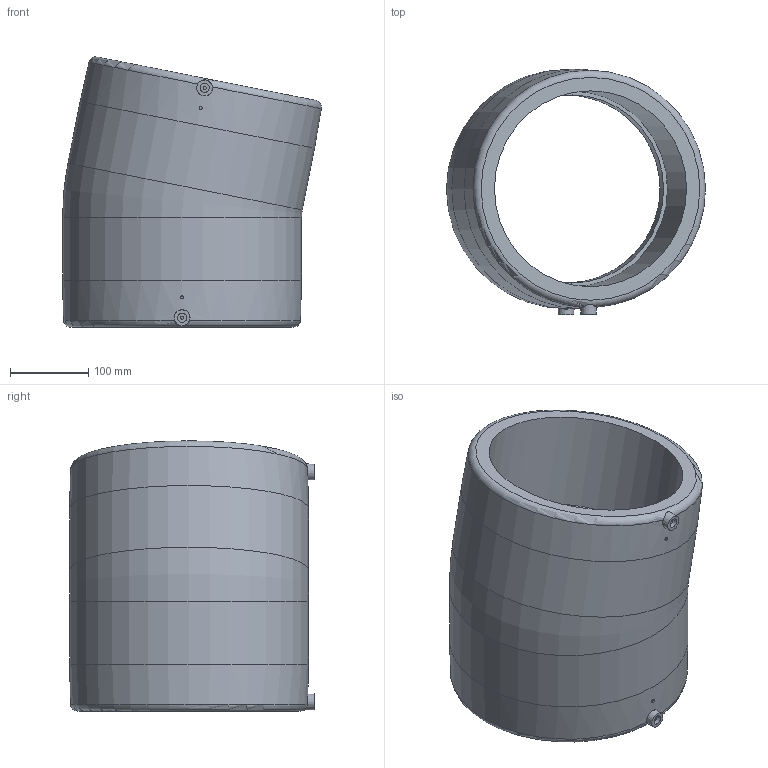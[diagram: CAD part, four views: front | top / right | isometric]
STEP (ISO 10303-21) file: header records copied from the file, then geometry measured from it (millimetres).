
FILE_DESCRIPTION(/* description */ ('Unknown'),/* implementation_level */ '2;1');
FILE_NAME(/* name */ 'GE1125P250C',/* time_stamp */ '2020-11-30T15:53:44+01:00',/* author */ ('Unknown'),/* organization */ ('Unknown'),/* preprocessor_version */ 'ST-DEVELOPER v16.7',/* originating_system */ 'Solid Edge',/* authorisation */ 'Unknown');
FILE_SCHEMA (('AUTOMOTIVE_DESIGN {1 0 10303 214 3 1 1}'));
Length unit declared in the file: millimetre
Products named in the file (1): GE1125P250C
Bounding box: 330.43 x 312.5 x 344.84 mm (x, y, z)
Volume: 7824863.1 mm3; surface area: 603343.8 mm2
Topology: 1 solids, 1 shells, 32 faces, 75 edges, 53 vertices
Faces by surface type: plane 12, cylinder 12, cone 4, torus 4
Full cylindrical faces by diameter (mm): 4 x4, 11.7 x2, 240 x2, 250 x2, 305 x2
Entity records: 842 total; most frequent: CARTESIAN_POINT 190, DIRECTION 140, ORIENTED_EDGE 90, AXIS2_PLACEMENT_3D 70, EDGE_LOOP 61, FACE_BOUND 61, EDGE_CURVE 45, VERTEX_POINT 42
